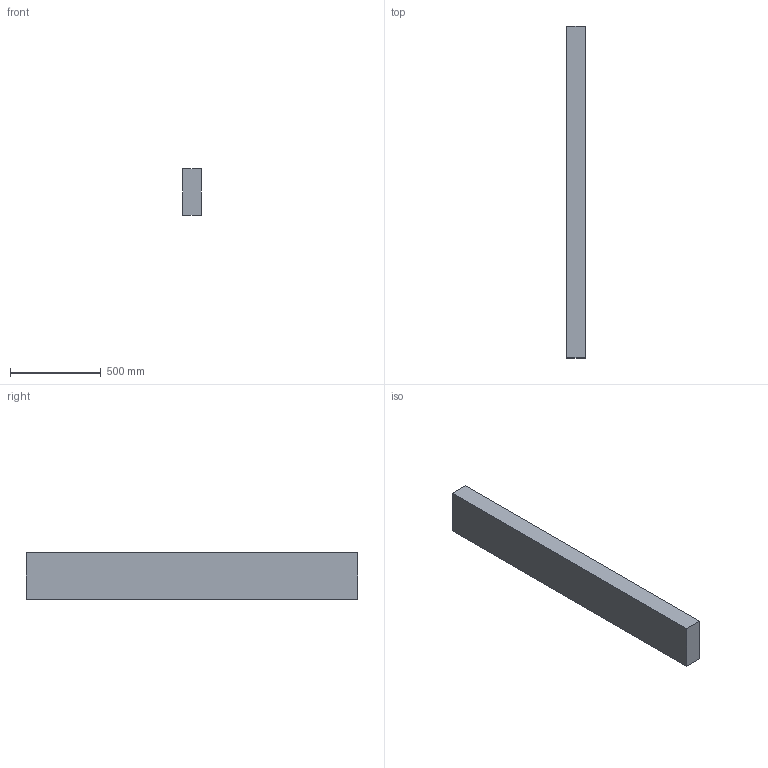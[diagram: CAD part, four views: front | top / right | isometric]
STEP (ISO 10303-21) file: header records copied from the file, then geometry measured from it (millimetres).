
FILE_DESCRIPTION(/* description */ (''),/* implementation_level */ '2;1');
FILE_NAME(/* name */ '4x10x72',/* time_stamp */ '2024-09-20T11:45:43-05:00',/* author */ (''),/* organization */ (''),/* preprocessor_version */ 'ST-DEVELOPER v19.2',/* originating_system */ 'Rhino 8.5',/* authorisation */ '');
FILE_SCHEMA (('CONFIG_CONTROL_DESIGN'));
Length unit declared in the file: inch
Products named in the file (1): Document
Bounding box: 101.6 x 1828.8 x 254 mm (x, y, z)
Volume: 47194744.3 mm3; surface area: 1352255.4 mm2
Topology: 1 solids, 1 shells, 6 faces, 12 edges, 8 vertices
Faces by surface type: plane 6
Entity records: 226 total; most frequent: CARTESIAN_POINT 40, ORIENTED_EDGE 24, EDGE_CURVE 12, B_SPLINE_CURVE_WITH_KNOTS 12, DIRECTION 10, VERTEX_POINT 8, AXIS2_PLACEMENT_3D 8, ORGANIZATION 7
